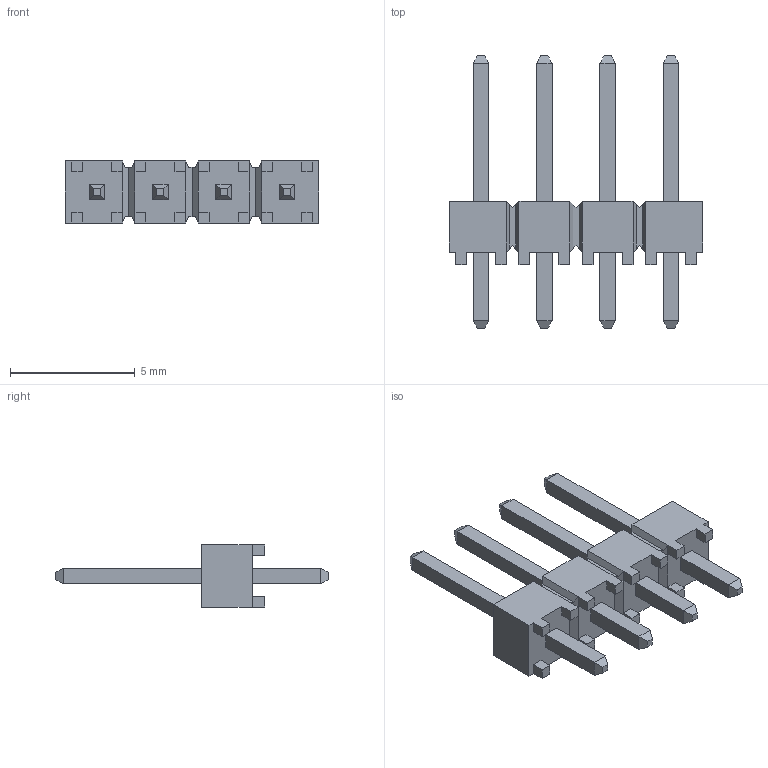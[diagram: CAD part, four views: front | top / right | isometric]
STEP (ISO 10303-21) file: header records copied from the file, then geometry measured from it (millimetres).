
FILE_DESCRIPTION( ( 'STEP AP214' ), '1' );
FILE_NAME( 'e:/temp/worker_944/temp/exporttempdir_7052_357_1RnGR/format_0/HTSW-104-07-T-S.stp', '2022-06-03T14:06:12', ( 'License CC BY-ND 4.0' ), ( 'CADENAS' ), ' ', 'PARTsolutions', ' ' );
FILE_SCHEMA( ( 'AUTOMOTIVE_DESIGN { 1 0 10303 214 1 1 1 1 }' ) );
Length unit declared in the file: inch
Products named in the file (3): HTSW-104-07-T-S; _HTSW-104-07-T-S_body; _T-1S6-07-HTSW-1--07-4-S
Assembly tree (2 placements, depth 2):
  HTSW-104-07-T-S
    _HTSW-104-07-T-S_body
    _T-1S6-07-HTSW-1--07-4-S
Bounding box: 10.16 x 10.92 x 2.49 mm (x, y, z)
Volume: 65.5 mm3; surface area: 260.5 mm2
Topology: 2 solids, 2 shells, 206 faces, 514 edges, 320 vertices
Faces by surface type: plane 206
Entity records: 7632 total; most frequent: CARTESIAN_POINT 1043, ORIENTED_EDGE 1028, DIRECTION 932, EDGE_CURVE 514, LINE 514, VECTOR 514, VERTEX_POINT 320, EDGE_LOOP 222
